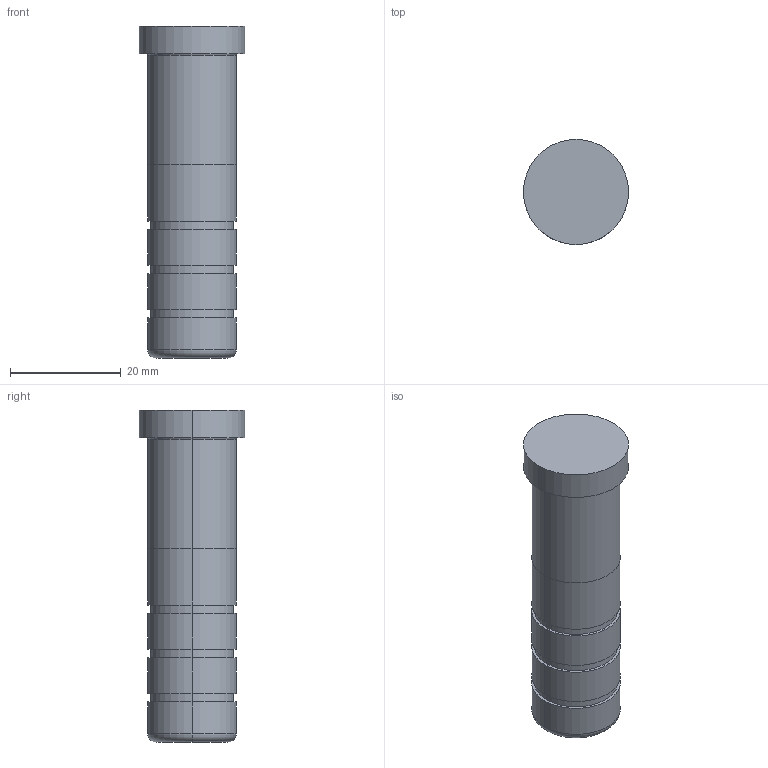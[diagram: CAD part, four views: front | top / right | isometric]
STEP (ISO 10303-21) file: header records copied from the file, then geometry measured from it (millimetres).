
FILE_DESCRIPTION(/* description */ (''),/* implementation_level */ '2;1');
FILE_NAME(/* name */ '3d_sgoh16-60_05231_r00.stp',/* time_stamp */ '2011-01-10T14:11:09+09:00',/* author */ ('MISUMI'),/* organization */ (''),/* preprocessor_version */ 'ST-DEVELOPER v11',/* originating_system */ 'UGS - NX 5.0',/* authorisation */ '');
FILE_SCHEMA (('CONFIG_CONTROL_DESIGN'));
Length unit declared in the file: millimetre
Products named in the file (1): 3d_sgoh16-60_05231_r00
Bounding box: 19 x 19 x 60 mm (x, y, z)
Volume: 12343.9 mm3; surface area: 3723.3 mm2
Topology: 1 solids, 1 shells, 31 faces, 60 edges, 38 vertices
Faces by surface type: cylinder 18, plane 9, torus 4
Entity records: 894 total; most frequent: DIRECTION 166, CARTESIAN_POINT 130, ORIENTED_EDGE 120, AXIS2_PLACEMENT_3D 74, EDGE_CURVE 60, CIRCLE 42, EDGE_LOOP 38, VERTEX_POINT 38
